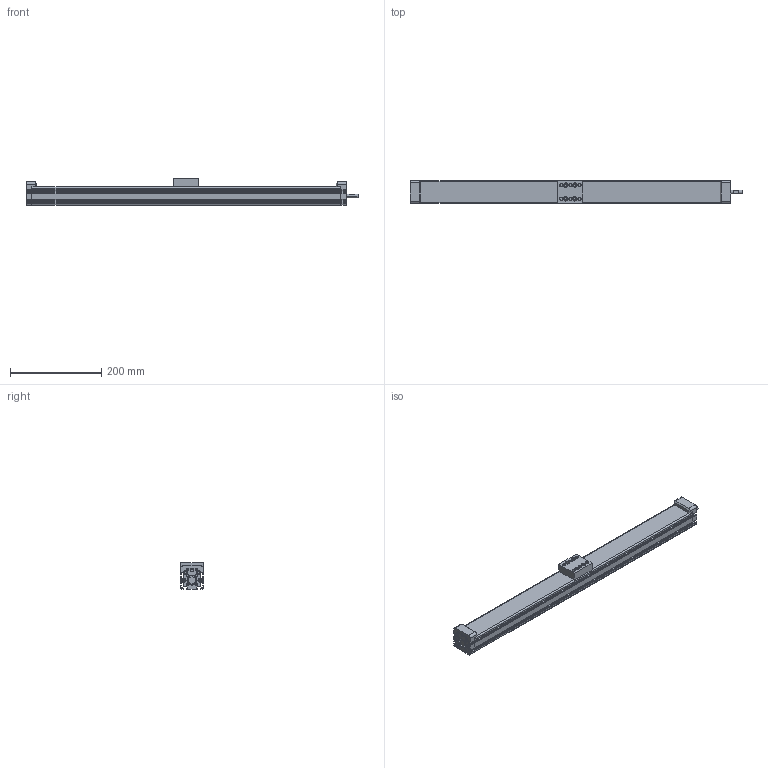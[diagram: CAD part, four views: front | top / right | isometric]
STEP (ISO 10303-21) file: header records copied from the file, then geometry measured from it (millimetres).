
FILE_DESCRIPTION (( 'STEP AP203' ), '1' );
FILE_NAME ('mau5040ss-600r.STEP', '2023-04-12T06:51:27', ( '' ), ( '' ), 'SwSTEP 2.0', 'SolidWorks 2021', '' );
FILE_SCHEMA (( 'CONFIG_CONTROL_DESIGN' ));
Length unit declared in the file: millimetre
Products named in the file (3): mau5040ss-600r; mau5040ss-600r_01_蹬怮椔; mau5040ss-600r_02_蹬怮椔
Assembly tree (2 placements, depth 2):
  mau5040ss-600r
    mau5040ss-600r_01_蹬怮椔
    mau5040ss-600r_02_蹬怮椔
Bounding box: 726 x 50 x 58 mm (x, y, z)
Volume: 1251277.7 mm3; surface area: 232334 mm2
Topology: 2 solids, 2 shells, 862 faces, 2308 edges, 1516 vertices
Faces by surface type: plane 430, cylinder 364, cone 68
Entity records: 27335 total; most frequent: DIRECTION 4844, CARTESIAN_POINT 4691, ORIENTED_EDGE 4616, EDGE_CURVE 2308, AXIS2_PLACEMENT_3D 1669, VERTEX_POINT 1516, VECTOR 1506, LINE 1506
